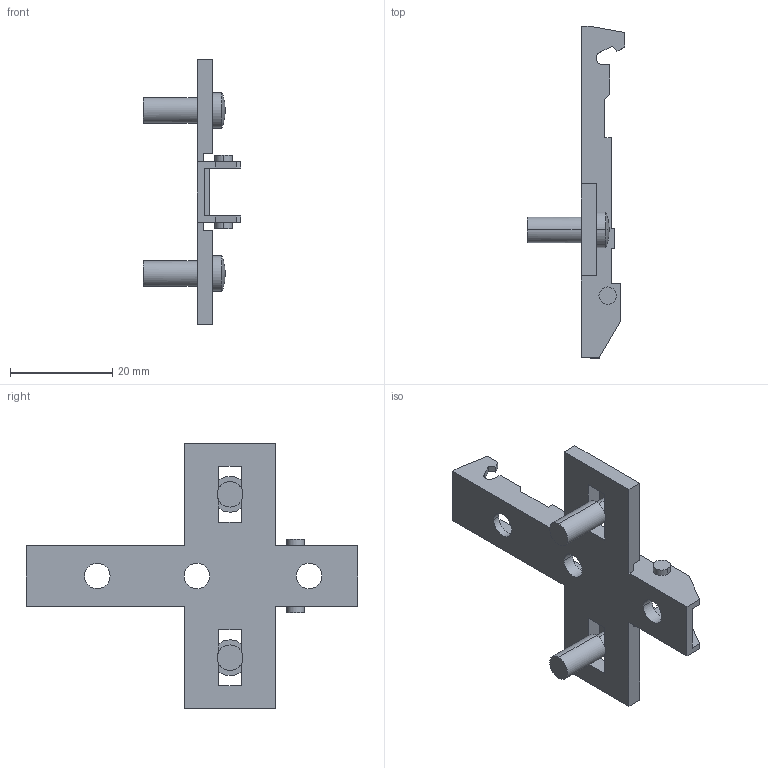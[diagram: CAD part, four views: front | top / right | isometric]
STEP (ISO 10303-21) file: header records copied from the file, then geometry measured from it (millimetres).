
FILE_DESCRIPTION (( 'STEP AP214' ), '1' );
FILE_NAME ('Eco Kreuzmontageplatte LR37_32_Dübel 5mm_lang_H-02.step', '2010-11-18T10:07:40', ( 'grass' ), ( '' ), 'SwSTEP 2.0', 'SolidWorks 2010', '' );
FILE_SCHEMA (( 'AUTOMOTIVE_DESIGN' ));
Length unit declared in the file: millimetre
Products named in the file (1): Eco Kreuzmontageplatte LR37_32_Dübel 5mm_lang_H-02
Bounding box: 19 x 65 x 52 mm (x, y, z)
Volume: 4387.5 mm3; surface area: 5367.8 mm2
Topology: 1 solids, 1 shells, 103 faces, 303 edges, 196 vertices
Faces by surface type: plane 75, cylinder 24, sphere 4
Entity records: 3479 total; most frequent: ORIENTED_EDGE 606, CARTESIAN_POINT 603, DIRECTION 579, EDGE_CURVE 303, VECTOR 235, LINE 235, VERTEX_POINT 196, AXIS2_PLACEMENT_3D 172
